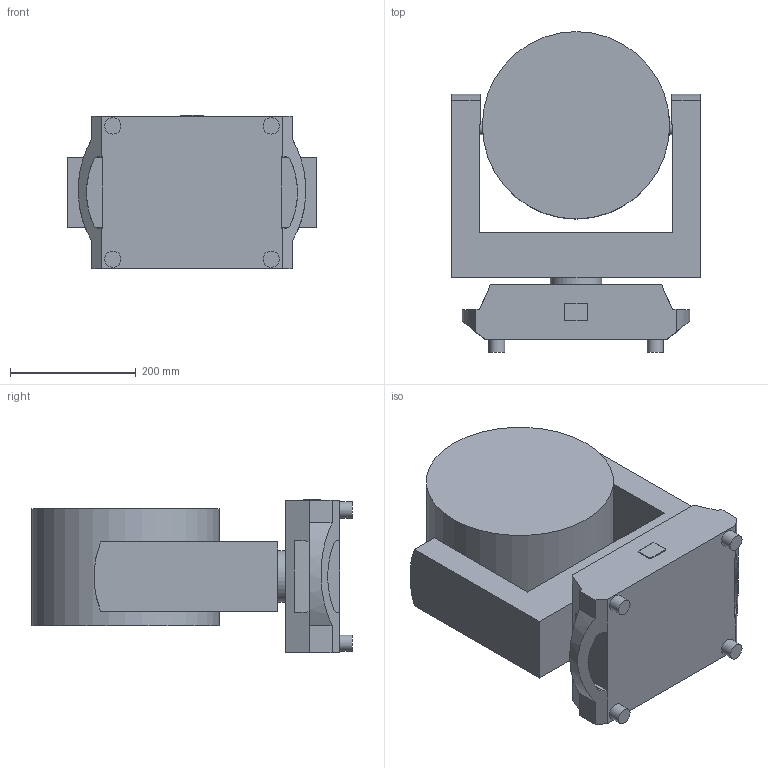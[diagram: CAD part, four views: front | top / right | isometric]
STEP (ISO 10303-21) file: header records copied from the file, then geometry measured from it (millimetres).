
FILE_DESCRIPTION(/* description */ (''),/* implementation_level */ '2;1');
FILE_NAME(/* name */ 'ROGUEOUTCAST3XWASH_90.stp',/* time_stamp */ '2025-10-20T15:47:14-04:00',/* author */ ('chenry'),/* organization */ (''),/* preprocessor_version */ 'ST-DEVELOPER v20',/* originating_system */ 'Autodesk Inventor 2024',/* authorisation */ '');
FILE_SCHEMA (('AUTOMOTIVE_DESIGN { 1 0 10303 214 3 1 1 }'));
Length unit declared in the file: millimetre
Products named in the file (4): ROIP-3720W-00_ASM; arm; head; base
Assembly tree (3 placements, depth 2):
  ROIP-3720W-00_ASM
    arm
    head
    base
Bounding box: 395.28 x 509.9 x 244.17 mm (x, y, z)
Volume: 24386171.3 mm3; surface area: 887854.9 mm2
Topology: 3 solids, 3 shells, 74 faces, 184 edges, 123 vertices
Faces by surface type: plane 47, cylinder 27
Full cylindrical faces by diameter (mm): 21 x3, 26 x4, 81.8 x2, 255.658 x1, 298 x1
Entity records: 2427 total; most frequent: CARTESIAN_POINT 422, DIRECTION 405, ORIENTED_EDGE 368, EDGE_CURVE 184, AXIS2_PLACEMENT_3D 142, VERTEX_POINT 123, LINE 121, VECTOR 121
